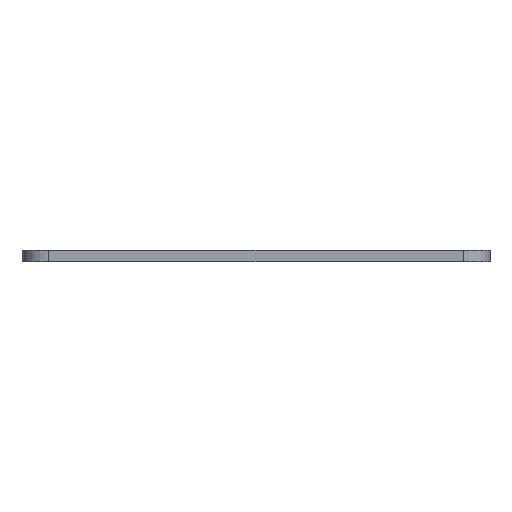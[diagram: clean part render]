
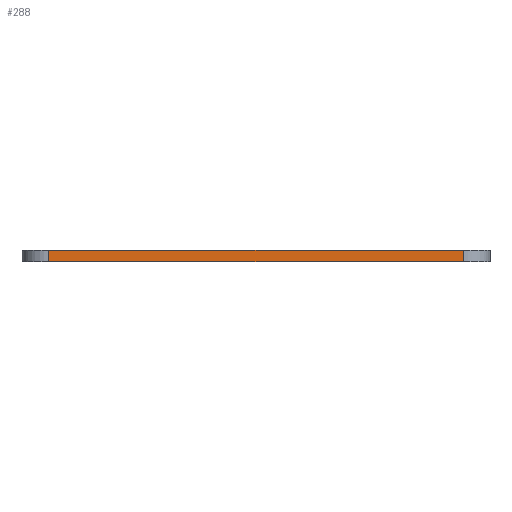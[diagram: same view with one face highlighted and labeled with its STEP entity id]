
A CAD part, left-side view. The second image highlights one B-rep face of the part: STEP entity #288.
In plain terms, the highlighted planar face has unit normal (-1, 0, 0).
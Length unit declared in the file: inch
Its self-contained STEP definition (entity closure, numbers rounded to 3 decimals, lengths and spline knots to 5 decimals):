
#71 = ORIENTED_EDGE ( 'NONE', *, *, #284, .T. ) ;
#173 = VERTEX_POINT ( 'NONE', #507 ) ;
#175 = EDGE_CURVE ( 'NONE', #173, #176, #506, .T. ) ;
#176 = VERTEX_POINT ( 'NONE', #502 ) ;
#284 = EDGE_CURVE ( 'NONE', #173, #1232, #804, .T. ) ;
#288 = ADVANCED_FACE ( 'NONE', ( #808 ), #816, .F. ) ;
#289 = EDGE_LOOP ( 'NONE', ( #290, #293, #295, #71 ) ) ;
#290 = ORIENTED_EDGE ( 'NONE', *, *, #1222, .T. ) ;
#293 = ORIENTED_EDGE ( 'NONE', *, *, #294, .F. ) ;
#294 = EDGE_CURVE ( 'NONE', #176, #1223, #825, .T. ) ;
#295 = ORIENTED_EDGE ( 'NONE', *, *, #175, .F. ) ;
#502 = CARTESIAN_POINT ( 'NONE',  ( -2.688, -2.378, 0.128 ) ) ;
#503 = DIRECTION ( 'NONE',  ( 0., -1., 0. ) ) ;
#504 = VECTOR ( 'NONE', #503, 39.37008 ) ;
#505 = CARTESIAN_POINT ( 'NONE',  ( -2.688, -2.378, 0.128 ) ) ;
#506 = LINE ( 'NONE', #505, #504 ) ;
#507 = CARTESIAN_POINT ( 'NONE',  ( -2.688, 2.378, 0.128 ) ) ;
#803 = VECTOR ( 'NONE', #817, 39.37008 ) ;
#804 = LINE ( 'NONE', #818, #803 ) ;
#808 = FACE_OUTER_BOUND ( 'NONE', #289, .T. ) ;
#811 = AXIS2_PLACEMENT_3D ( 'NONE', #823, #822, #821 ) ;
#816 = PLANE ( 'NONE',  #811 ) ;
#817 = DIRECTION ( 'NONE',  ( 0., 0., -1. ) ) ;
#818 = CARTESIAN_POINT ( 'NONE',  ( -2.688, 2.378, 0.128 ) ) ;
#821 = DIRECTION ( 'NONE',  ( 0., 1., 0. ) ) ;
#822 = DIRECTION ( 'NONE',  ( 1., 0., 0. ) ) ;
#823 = CARTESIAN_POINT ( 'NONE',  ( -2.688, -2.378, 0.128 ) ) ;
#825 = LINE ( 'NONE', #846, #827 ) ;
#826 = DIRECTION ( 'NONE',  ( 0., 0., -1. ) ) ;
#827 = VECTOR ( 'NONE', #826, 39.37008 ) ;
#846 = CARTESIAN_POINT ( 'NONE',  ( -2.688, -2.378, 0.128 ) ) ;
#1092 = CARTESIAN_POINT ( 'NONE',  ( -2.688, -2.378, 0. ) ) ;
#1093 = LINE ( 'NONE', #1092, #1103 ) ;
#1101 = CARTESIAN_POINT ( 'NONE',  ( -2.688, -2.378, 0. ) ) ;
#1102 = DIRECTION ( 'NONE',  ( 0., -1., 0. ) ) ;
#1103 = VECTOR ( 'NONE', #1102, 39.37008 ) ;
#1155 = CARTESIAN_POINT ( 'NONE',  ( -2.688, 2.378, 0. ) ) ;
#1222 = EDGE_CURVE ( 'NONE', #1232, #1223, #1093, .T. ) ;
#1223 = VERTEX_POINT ( 'NONE', #1101 ) ;
#1232 = VERTEX_POINT ( 'NONE', #1155 ) ;
